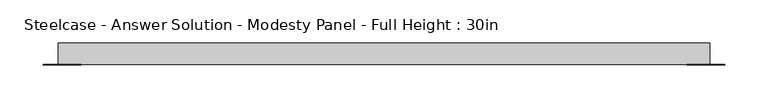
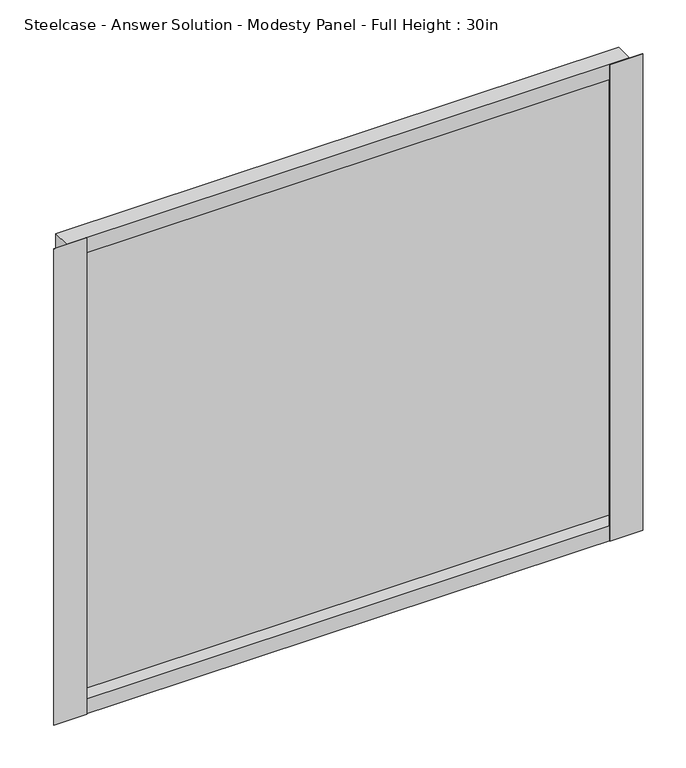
"""IFC4 building model written with IfcOpenShell, lengths in millimetres: furniture geometry, Steelcase - Answer Solution - Modesty Panel - Full Height : 30in."""

from ifc_helpers import new_model, si_unit, frame, origin, place, context, project, spatial, polyline, outline, extrude, faceted_brep, source, transform, mapped, element, save


def steelcase_answer_solution_modesty_panel_full_height_30in_3842627a(model_context):
    return source(origin(), model_context, "Body", "SolidModel", [
        extrude(outline(polyline([(1305.5400478, -14.2668826), (1305.5400478, -15.0593624), (1261.1248254, -15.0593624), (1261.1248254, -14.2668826), (1305.5400478, -14.2668826)])), frame((0.0, 0.0, 17.653), z_axis=(0.0, 0.0, 1.0), x_axis=(1.0, 0.0, 0.0)), (0.0, 0.0, 1.0), 678.18),
        extrude(outline(polyline([(556.9673392, -14.2668826), (556.9673392, -15.0593624), (512.5520826, -15.0593624), (512.5520826, -14.2668826), (556.9673392, -14.2668826)])), frame((0.0, 0.0, 17.653), z_axis=(0.0, 0.0, 1.0), x_axis=(1.0, 0.0, 0.0)), (0.0, 0.0, 1.0), 678.18),
        faceted_brep([(530.0780827, 10.9045177, 17.653), (530.0780827, -14.2668826, 17.653), (530.0780827, -14.2668826, 695.833), (530.0780827, 10.9045177, 695.833), (1288.0140827, -14.2668826, 17.653), (1288.0140827, 10.9045177, 17.653), (1288.0140827, 10.9045177, 695.833), (1288.0140827, -14.2668826, 695.833), (1287.2216165, 4.7831174, 39.243), (530.8705628, 4.7831174, 39.243), (530.8705628, -14.2668826, 39.243), (1287.2216165, -14.2668826, 39.243), (530.8705628, -14.2668826, 674.243), (1287.2216165, -14.2668826, 674.243), (530.8705628, 4.7831174, 674.243), (1287.2216165, 4.7831174, 674.243)], [[[0, 1, 2, 3]], [[4, 5, 6, 7]], [[8, 9, 10, 11]], [[0, 3, 6, 5]], [[4, 1, 0, 5]], [[2, 1, 4, 7], [10, 12, 13, 11]], [[3, 2, 7, 6]], [[14, 15, 13, 12]], [[9, 8, 15, 14]], [[12, 10, 9, 14]], [[11, 13, 15, 8]]]),
    ])


if __name__ == "__main__":
    model = new_model("IFC4")
    model_context = context("Model", 3, world=origin())
    ifc_project = project(units=[si_unit("LENGTHUNIT", "METRE", prefix="MILLI")], contexts=[model_context])
    site = spatial("IfcSite", under=ifc_project)
    building = spatial("IfcBuilding", under=site)
    placement = place(None, origin())
    steelcase_answer_solution_modesty_panel_full_height_30in_shape = steelcase_answer_solution_modesty_panel_full_height_30in_3842627a(model_context)
    element("IfcFurniture", 1, ObjectType="Steelcase - Answer Solution - Modesty Panel - Full Height : 30in", at=placement, inside=building, context=model_context, shape_type="MappedRepresentation", body=[
        mapped(steelcase_answer_solution_modesty_panel_full_height_30in_shape, transform((0.0, 0.0, 0.0), x_axis=(1.0, 0.0, 0.0), y_axis=(0.0, 1.0, 0.0), z_axis=(0.0, 0.0, 1.0))),
    ])
    save(model, "model.ifc")
